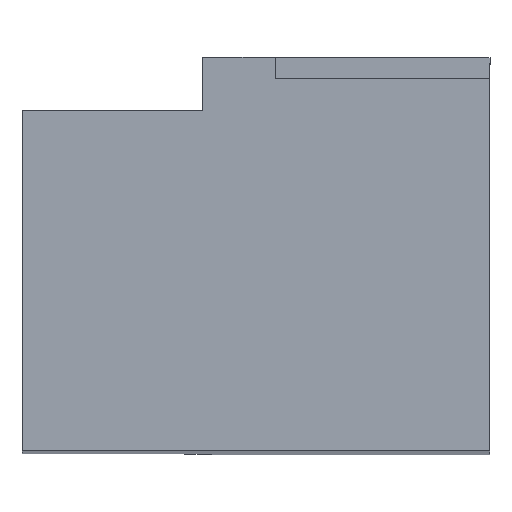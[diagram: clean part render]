
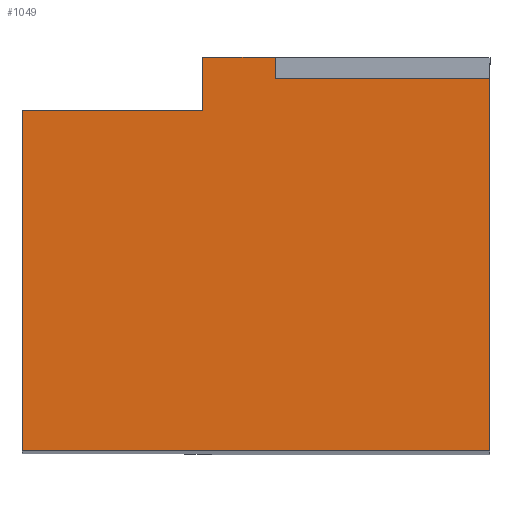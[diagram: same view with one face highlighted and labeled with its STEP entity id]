
A CAD part, top view. The second image highlights one B-rep face of the part: STEP entity #1049.
In plain terms, the highlighted planar face has unit normal (0, 0, 1).
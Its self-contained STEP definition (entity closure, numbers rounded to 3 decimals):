
#27 = VERTEX_POINT ( 'NONE', #664 ) ;
#104 = EDGE_CURVE ( 'NONE', #27, #618, #349, .T. ) ;
#114 = EDGE_CURVE ( 'NONE', #618, #610, #360, .T. ) ;
#115 = EDGE_CURVE ( 'NONE', #613, #27, #371, .T. ) ;
#120 = AXIS2_PLACEMENT_3D ( 'NONE', #968, #974, #975 ) ;
#122 = EDGE_CURVE ( 'NONE', #619, #613, #362, .T. ) ;
#148 = EDGE_CURVE ( 'NONE', #616, #625, #264, .T. ) ;
#157 = EDGE_CURVE ( 'NONE', #625, #619, #258, .T. ) ;
#171 = EDGE_CURVE ( 'NONE', #610, #607, #267, .T. ) ;
#173 = EDGE_CURVE ( 'NONE', #607, #616, #227, .T. ) ;
#198 = FACE_OUTER_BOUND ( 'NONE', #576, .T. ) ;
#226 = VECTOR ( 'NONE', #859, 1000. ) ;
#227 = LINE ( 'NONE', #858, #226 ) ;
#239 = ORIENTED_EDGE ( 'NONE', *, *, #114, .F. ) ;
#244 = VECTOR ( 'NONE', #836, 1000. ) ;
#258 = LINE ( 'NONE', #835, #244 ) ;
#263 = VECTOR ( 'NONE', #830, 1000. ) ;
#264 = LINE ( 'NONE', #829, #263 ) ;
#267 = LINE ( 'NONE', #855, #395 ) ;
#270 = ORIENTED_EDGE ( 'NONE', *, *, #115, .F. ) ;
#346 = VECTOR ( 'NONE', #781, 1000. ) ;
#349 = LINE ( 'NONE', #759, #358 ) ;
#358 = VECTOR ( 'NONE', #764, 1000. ) ;
#360 = LINE ( 'NONE', #775, #346 ) ;
#362 = LINE ( 'NONE', #792, #364 ) ;
#364 = VECTOR ( 'NONE', #793, 1000. ) ;
#370 = VECTOR ( 'NONE', #783, 1000. ) ;
#371 = LINE ( 'NONE', #782, #370 ) ;
#395 = VECTOR ( 'NONE', #856, 1000. ) ;
#479 = ORIENTED_EDGE ( 'NONE', *, *, #104, .F. ) ;
#487 = ORIENTED_EDGE ( 'NONE', *, *, #171, .F. ) ;
#552 = ORIENTED_EDGE ( 'NONE', *, *, #122, .F. ) ;
#553 = ORIENTED_EDGE ( 'NONE', *, *, #157, .F. ) ;
#554 = ORIENTED_EDGE ( 'NONE', *, *, #148, .F. ) ;
#555 = ORIENTED_EDGE ( 'NONE', *, *, #173, .F. ) ;
#576 = EDGE_LOOP ( 'NONE', ( #552, #553, #554, #555, #487, #239, #479, #270 ) ) ;
#607 = VERTEX_POINT ( 'NONE', #862 ) ;
#610 = VERTEX_POINT ( 'NONE', #857 ) ;
#613 = VERTEX_POINT ( 'NONE', #865 ) ;
#616 = VERTEX_POINT ( 'NONE', #867 ) ;
#618 = VERTEX_POINT ( 'NONE', #869 ) ;
#619 = VERTEX_POINT ( 'NONE', #870 ) ;
#625 = VERTEX_POINT ( 'NONE', #876 ) ;
#664 = CARTESIAN_POINT ( 'NONE',  ( 4., 0., 48.6 ) ) ;
#759 = CARTESIAN_POINT ( 'NONE',  ( 4., -17.5, 48.6 ) ) ;
#764 = DIRECTION ( 'NONE',  ( 0., -1., 0. ) ) ;
#775 = CARTESIAN_POINT ( 'NONE',  ( -18., -17.5, 48.6 ) ) ;
#781 = DIRECTION ( 'NONE',  ( -1., 0., 0. ) ) ;
#782 = CARTESIAN_POINT ( 'NONE',  ( -6.1, 0., 48.6 ) ) ;
#783 = DIRECTION ( 'NONE',  ( 1., 0., 0. ) ) ;
#792 = CARTESIAN_POINT ( 'NONE',  ( -6.1, -16.5, 48.6 ) ) ;
#793 = DIRECTION ( 'NONE',  ( 0., -1., 0. ) ) ;
#829 = CARTESIAN_POINT ( 'NONE',  ( -9.5, 1., 48.6 ) ) ;
#830 = DIRECTION ( 'NONE',  ( 0., 1., 0. ) ) ;
#835 = CARTESIAN_POINT ( 'NONE',  ( -6.1, 1., 48.6 ) ) ;
#836 = DIRECTION ( 'NONE',  ( 1., 0., 0. ) ) ;
#855 = CARTESIAN_POINT ( 'NONE',  ( -18., -1.5, 48.6 ) ) ;
#856 = DIRECTION ( 'NONE',  ( 0., 1., 0. ) ) ;
#857 = CARTESIAN_POINT ( 'NONE',  ( -18., -17.5, 48.6 ) ) ;
#858 = CARTESIAN_POINT ( 'NONE',  ( -9.5, -1.5, 48.6 ) ) ;
#859 = DIRECTION ( 'NONE',  ( 1., 0., 0. ) ) ;
#862 = CARTESIAN_POINT ( 'NONE',  ( -18., -1.5, 48.6 ) ) ;
#865 = CARTESIAN_POINT ( 'NONE',  ( -6.1, 0., 48.6 ) ) ;
#867 = CARTESIAN_POINT ( 'NONE',  ( -9.5, -1.5, 48.6 ) ) ;
#869 = CARTESIAN_POINT ( 'NONE',  ( 4., -17.5, 48.6 ) ) ;
#870 = CARTESIAN_POINT ( 'NONE',  ( -6.1, 1., 48.6 ) ) ;
#876 = CARTESIAN_POINT ( 'NONE',  ( -9.5, 1., 48.6 ) ) ;
#965 = PLANE ( 'NONE',  #120 ) ;
#968 = CARTESIAN_POINT ( 'NONE',  ( -18., -17.5, 48.6 ) ) ;
#974 = DIRECTION ( 'NONE',  ( 0., 0., -1. ) ) ;
#975 = DIRECTION ( 'NONE',  ( 0., -1., 0. ) ) ;
#1049 = ADVANCED_FACE ( 'NONE', ( #198 ), #965, .F. ) ;
